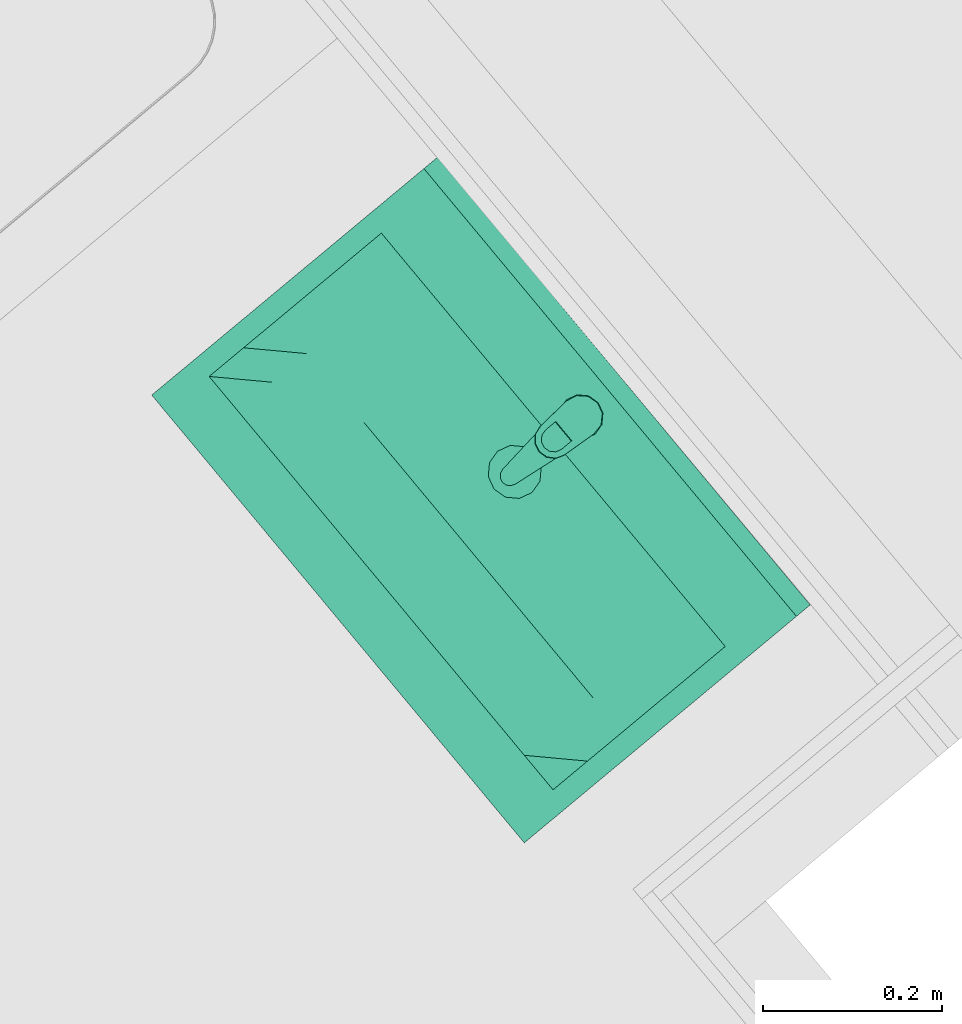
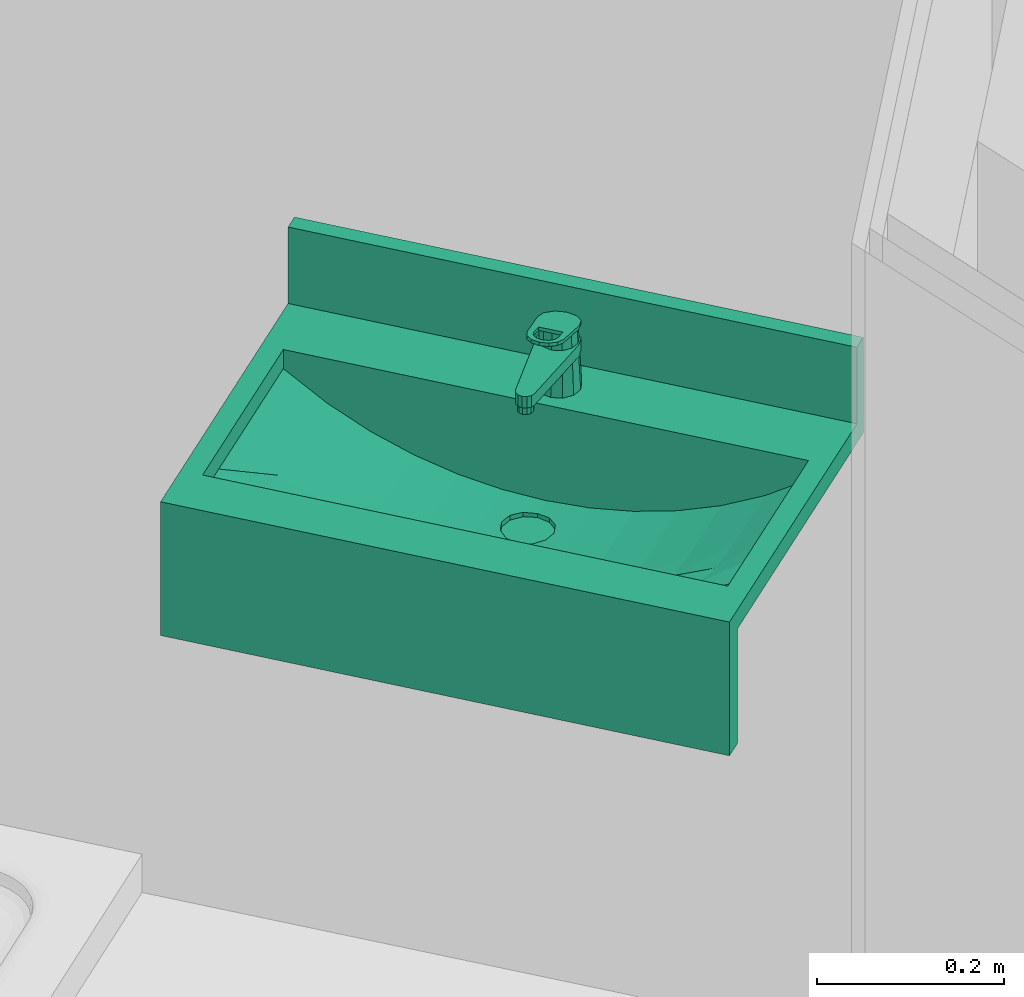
# One storey, part 59 of 67: 1 sanitary terminal.
"""IFC4 building model written with IfcOpenShell, lengths in metres."""

from ifc_helpers import new_model, entity, si_unit, converted_unit, derived_unit, direction, frame, origin_with_axes, place, context, subcontext, project, spatial, polygons, source, transform, mapped, type_object, element, save


model = new_model("IFC4")

# Units and contexts
model_context = context("Model", 3, precision=1e-05, world=origin_with_axes(), true_north=direction((0.0, 1.0)))
body_context = subcontext(model_context, "Body", "Model", "MODEL_VIEW")
ifc_project = project(units=[si_unit("LENGTHUNIT", "METRE"), si_unit("AREAUNIT", "SQUARE_METRE"), si_unit("VOLUMEUNIT", "CUBIC_METRE"), converted_unit("PLANEANGLEUNIT", "DEGREE", entity("IfcPlaneAngleMeasure", 0.0174532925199), si_unit("PLANEANGLEUNIT", "RADIAN"), dimensions=[0, 0, 0, 0, 0, 0, 0]), converted_unit("TIMEUNIT", "Year", entity("IfcTimeMeasure", 31556926.0), si_unit("TIMEUNIT", "SECOND"), dimensions=[0, 0, 1, 0, 0, 0, 0]), si_unit("MASSUNIT", "GRAM", prefix="KILO"), si_unit("THERMODYNAMICTEMPERATUREUNIT", "DEGREE_CELSIUS"), si_unit("LUMINOUSINTENSITYUNIT", "LUMEN"), si_unit("ENERGYUNIT", "JOULE", prefix="MEGA"), derived_unit("THERMALCONDUCTANCEUNIT", [(si_unit("POWERUNIT", "WATT"), 1), (si_unit("LENGTHUNIT", "METRE"), -1), (si_unit("THERMODYNAMICTEMPERATUREUNIT", "KELVIN"), -1)]), derived_unit("SPECIFICHEATCAPACITYUNIT", [(si_unit("ENERGYUNIT", "JOULE"), 1), (si_unit("MASSUNIT", "GRAM", prefix="KILO"), -1), (si_unit("THERMODYNAMICTEMPERATUREUNIT", "KELVIN"), -1)]), derived_unit("MASSDENSITYUNIT", [(si_unit("MASSUNIT", "GRAM", prefix="KILO"), 1), (si_unit("VOLUMEUNIT", "CUBIC_METRE"), -1)])], contexts=[model_context])

# Site, building, storey
site_placement = place(None, frame((-0.00153261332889, -0.00661245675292, 0.0), z_axis=(0.0, 0.0, 1.0), x_axis=(1.0, 0.0, 0.0)))
site = spatial("IfcSite", under=ifc_project, at=site_placement, Name="Site", CompositionType="ELEMENT")
building_placement = place(site_placement, origin_with_axes())
building = spatial("IfcBuilding", under=site, at=building_placement, Name="Building", CompositionType="ELEMENT")
storey_placement = place(building_placement, frame((0.0, 0.0, -0.22), z_axis=(0.0, 0.0, 1.0), x_axis=(1.0, 0.0, 0.0)))
storey = spatial("IfcBuildingStorey", under=building, at=storey_placement, Name="EG", CompositionType="ELEMENT", Elevation=-0.22)

# Sanitary terminal
sanitary_terminal_type = type_object("IfcSanitaryTerminalType", Name="Waschbecken mehrfach 26", PredefinedType="NOTDEFINED")
shared_shape = source(origin_with_axes(), body_context, "Body", "Tessellation", [
    polygons([(-0.325, 0.0, 0.875), (0.325, 0.0, 0.875), (0.325, -0.415119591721, 0.875), (-0.325, -0.415119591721, 0.875), (-0.3, -0.35255979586, 0.875), (0.3, -0.35255979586, 0.875), (0.3, -0.10255979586, 0.875), (-0.3, -0.10255979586, 0.875), (-0.325, 0.0, 0.9), (0.325, 0.0, 0.9), (0.325, -0.415119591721, 0.9), (-0.325, -0.415119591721, 0.9), (-0.3, -0.35255979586, 0.9), (0.3, -0.35255979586, 0.9), (0.3, -0.10255979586, 0.9), (-0.3, -0.10255979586, 0.9)], [[[1, 2, 3, 4], [5, 6, 7, 8]], [[1, 9, 10, 2]], [[2, 10, 11, 3]], [[3, 11, 12, 4]], [[4, 12, 9, 1]], [[13, 14, 6, 5]], [[14, 15, 7, 6]], [[15, 16, 8, 7]], [[16, 13, 5, 8]], [[11, 10, 9, 12], [13, 16, 15, 14]]], closed=True),
    polygons([(-0.325, -0.02, 0.9), (0.325, -0.02, 0.9), (0.325, -0.02, 1.0), (-0.325, -0.02, 1.0), (-0.325, 0.0, 0.9), (0.325, 0.0, 0.9), (0.325, 0.0, 1.0), (-0.325, 0.0, 1.0)], [[[1, 2, 3, 4]], [[1, 5, 6, 2]], [[2, 6, 7, 3]], [[4, 3, 7, 8]], [[5, 1, 4, 8]], [[6, 5, 8, 7]]], closed=True),
    polygons([(-0.325, -0.415119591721, 0.725), (0.325, -0.415119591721, 0.725), (0.325, -0.415119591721, 0.875), (-0.325, -0.415119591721, 0.875), (-0.325, -0.390119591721, 0.725), (0.325, -0.390119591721, 0.725), (0.325, -0.390119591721, 0.875), (-0.325, -0.390119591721, 0.875)], [[[1, 2, 3, 4]], [[1, 5, 6, 2]], [[2, 6, 7, 3]], [[4, 3, 7, 8]], [[5, 1, 4, 8]], [[6, 5, 8, 7]]], closed=True),
    polygons([(0.0, -0.18855104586, 0.775), (-0.015, -0.184531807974, 0.775751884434), (-0.0259807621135, -0.17355104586, 0.776302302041), (-0.03, -0.15855104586, 0.776503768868), (-0.0283946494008, -0.15255979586, 0.77642329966), (-0.05, -0.15255979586, 0.777506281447), (-0.05, -0.20255979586, 0.777506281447), (0.0, -0.20255979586, 0.775), (-0.015, -0.132570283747, 0.775751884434), (0.0, -0.12855104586, 0.775), (0.0, -0.10255979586, 0.775), (-0.05, -0.10255979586, 0.777506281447), (-0.0259807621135, -0.14355104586, 0.776302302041), (-0.1, -0.15255979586, 0.785102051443), (-0.1, -0.20255979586, 0.785102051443), (-0.05, -0.25255979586, 0.788254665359), (0.05, -0.15255979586, 0.777506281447), (0.0283946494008, -0.15255979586, 0.77642329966), (0.03, -0.15855104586, 0.776503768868), (0.0259807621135, -0.17355104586, 0.776302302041), (0.015, -0.184531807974, 0.775751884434), (0.05, -0.20255979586, 0.777506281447), (0.015, -0.132570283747, 0.775751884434), (0.0259807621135, -0.14355104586, 0.776302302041), (0.05, -0.10255979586, 0.777506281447), (0.15, -0.10255979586, 0.798030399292), (0.2, -0.10255979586, 0.816742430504), (0.25, -0.10255979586, 0.841987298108), (0.3, -0.10255979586, 0.875), (-0.3, -0.10255979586, 0.875), (-0.25, -0.10255979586, 0.841987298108), (-0.2, -0.10255979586, 0.816742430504), (-0.15, -0.10255979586, 0.798030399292), (-0.1, -0.10255979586, 0.785102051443), (0.1, -0.10255979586, 0.785102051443), (-0.15, -0.15255979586, 0.798030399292), (-0.15, -0.20255979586, 0.798030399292), (-0.1, -0.25255979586, 0.795144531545), (0.0, -0.25255979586, 0.785977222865), (0.1, -0.20255979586, 0.785102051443), (0.1, -0.15255979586, 0.785102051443), (0.2, -0.15255979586, 0.816742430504), (0.15, -0.15255979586, 0.798030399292), (0.25, -0.15255979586, 0.841987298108), (0.3, -0.15255979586, 0.875), (-0.25, -0.15255979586, 0.841987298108), (-0.3, -0.15255979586, 0.875), (-0.2, -0.15255979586, 0.816742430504), (-0.2, -0.20255979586, 0.816742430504), (-0.15, -0.25255979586, 0.806826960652), (-0.05, -0.30255979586, 0.830189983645), (-0.1, -0.30255979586, 0.83395176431), (0.05, -0.25255979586, 0.788254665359), (0.15, -0.20255979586, 0.798030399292), (0.2, -0.20255979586, 0.816742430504), (0.25, -0.20255979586, 0.841987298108), (0.3, -0.20255979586, 0.875), (0.3, -0.25255979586, 0.875), (0.3, -0.30255979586, 0.875), (0.3, -0.35255979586, 0.875), (-0.3, -0.25255979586, 0.875), (-0.3, -0.20255979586, 0.875), (-0.3, -0.35255979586, 0.875), (-0.3, -0.30255979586, 0.875), (-0.25, -0.20255979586, 0.841987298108), (-0.2, -0.25255979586, 0.823629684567), (-0.15, -0.30255979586, 0.840253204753), (0.0, -0.30255979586, 0.828939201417), (0.1, -0.25255979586, 0.795144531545), (0.15, -0.25255979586, 0.806826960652), (0.2, -0.25255979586, 0.823629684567), (0.25, -0.25255979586, 0.846079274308), (0.25, -0.30255979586, 0.860693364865), (0.25, -0.35255979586, 0.875), (-0.25, -0.30255979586, 0.860693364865), (-0.25, -0.25255979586, 0.846079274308), (-0.2, -0.30255979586, 0.849143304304), (-0.05, -0.35255979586, 0.875), (-0.1, -0.35255979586, 0.875), (-0.15, -0.35255979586, 0.875), (0.05, -0.30255979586, 0.830189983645), (-0.2, -0.35255979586, 0.875), (-0.25, -0.35255979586, 0.875), (0.2, -0.35255979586, 0.875), (0.15, -0.35255979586, 0.875), (0.1, -0.35255979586, 0.875), (0.05, -0.35255979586, 0.875), (0.0, -0.35255979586, 0.875), (0.1, -0.30255979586, 0.83395176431), (0.15, -0.30255979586, 0.840253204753), (0.2, -0.30255979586, 0.849143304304)], [[[1, 2, 3, 4, 5, 6, 7, 8]], [[9, 10, 11, 12, 6, 5, 13]], [[7, 6, 14, 15]], [[16, 8, 7]], [[17, 18, 19, 20, 21, 1, 8, 22]], [[10, 23, 24, 18, 17, 25, 11]], [[26, 27, 28, 29, 30, 31, 32, 33, 34, 12, 11, 25, 35]], [[6, 12, 34, 14]], [[15, 14, 36, 37]], [[38, 7, 15]], [[16, 39, 8]], [[38, 16, 7]], [[39, 22, 8]], [[40, 41, 17, 22]], [[41, 35, 25, 17]], [[42, 27, 26, 43]], [[44, 28, 27, 42]], [[45, 29, 28, 44]], [[46, 31, 30, 47]], [[48, 32, 31, 46]], [[36, 33, 32, 48]], [[14, 34, 33, 36]], [[43, 26, 35, 41]], [[37, 36, 48, 49]], [[50, 15, 37]], [[50, 38, 15]], [[51, 39, 16]], [[52, 16, 38]], [[39, 53, 22]], [[54, 43, 41, 40]], [[53, 40, 22]], [[55, 42, 43, 54]], [[56, 44, 42, 55]], [[57, 58, 59, 60, 29, 45]], [[57, 45, 44, 56]], [[61, 62, 47, 30, 63, 64]], [[65, 46, 47, 62]], [[49, 48, 46, 65]], [[66, 37, 49]], [[66, 50, 37]], [[67, 38, 50]], [[51, 68, 39]], [[52, 51, 16]], [[67, 52, 38]], [[68, 53, 39]], [[69, 54, 40]], [[53, 69, 40]], [[70, 55, 54]], [[71, 56, 55]], [[72, 58, 57]], [[73, 59, 58]], [[74, 60, 59]], [[72, 57, 56]], [[61, 65, 62]], [[63, 75, 64]], [[64, 76, 61]], [[76, 49, 65]], [[76, 66, 49]], [[77, 50, 66]], [[77, 67, 50]], [[78, 68, 51]], [[79, 51, 52]], [[80, 52, 67]], [[68, 81, 53]], [[69, 70, 54]], [[81, 69, 53]], [[70, 71, 55]], [[71, 72, 56]], [[73, 58, 72]], [[74, 59, 73]], [[80, 82, 83, 63, 60, 74, 84, 85, 86, 87, 88, 78, 79]], [[61, 76, 65]], [[63, 83, 75]], [[64, 75, 76]], [[75, 66, 76]], [[75, 77, 66]], [[82, 67, 77]], [[78, 88, 68]], [[79, 78, 51]], [[80, 79, 52]], [[82, 80, 67]], [[88, 81, 68]], [[89, 70, 69]], [[81, 89, 69]], [[90, 71, 70]], [[91, 72, 71]], [[91, 73, 72]], [[84, 74, 73]], [[83, 82, 77]], [[85, 84, 91]], [[86, 85, 90]], [[87, 86, 89]], [[88, 87, 81]], [[83, 77, 75]], [[89, 90, 70]], [[87, 89, 81]], [[90, 91, 71]], [[84, 73, 91]], [[85, 91, 90]], [[86, 90, 89]]], closed=False),
    polygons([(0.03, -0.15855104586, 0.776503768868), (0.0259807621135, -0.17355104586, 0.776302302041), (0.0259807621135, -0.17355104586, 0.77), (0.03, -0.15855104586, 0.77), (0.015, -0.184531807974, 0.775751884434), (0.015, -0.184531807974, 0.77), (0.0, -0.12855104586, 0.77), (0.015, -0.132570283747, 0.77), (0.0259807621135, -0.14355104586, 0.77), (0.0, -0.18855104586, 0.77), (-0.015, -0.184531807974, 0.77), (-0.0259807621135, -0.17355104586, 0.77), (-0.03, -0.15855104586, 0.77), (-0.0259807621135, -0.14355104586, 0.77), (-0.015, -0.132570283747, 0.77), (0.0259807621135, -0.14355104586, 0.776302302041), (0.0, -0.18855104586, 0.775), (0.0, -0.12855104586, 0.775), (0.015, -0.132570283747, 0.775751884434), (-0.015, -0.184531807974, 0.775751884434), (-0.0259807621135, -0.17355104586, 0.776302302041), (-0.03, -0.15855104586, 0.776503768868), (-0.0259807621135, -0.14355104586, 0.776302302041), (-0.015, -0.132570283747, 0.775751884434)], [[[1, 2, 3, 4]], [[2, 5, 6, 3]], [[7, 8, 9, 4, 3, 6, 10, 11, 12, 13, 14, 15]], [[16, 1, 4, 9]], [[5, 17, 10, 6]], [[18, 19, 8, 7]], [[19, 16, 9, 8]], [[17, 20, 11, 10]], [[20, 21, 12, 11]], [[21, 22, 13, 12]], [[22, 23, 14, 13]], [[23, 24, 15, 14]], [[24, 18, 7, 15]]], closed=False),
    polygons([(0.0125, -0.0409091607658, 0.9), (0.0, -0.0375597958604, 0.9), (0.0, -0.0413578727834, 0.975961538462), (0.0105873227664, -0.0442220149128, 0.976507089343), (0.0216506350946, -0.0500597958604, 0.9), (0.025, -0.0625597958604, 0.9), (0.0216506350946, -0.0750597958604, 0.9), (0.0125, -0.084210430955, 0.9), (0.0, -0.0875597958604, 0.9), (-0.0125, -0.084210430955, 0.9), (-0.0216506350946, -0.0750597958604, 0.9), (-0.025, -0.0625597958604, 0.9), (-0.0216506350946, -0.0500597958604, 0.9), (-0.0125, -0.0409091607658, 0.9), (-0.0105873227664, -0.0442220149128, 0.976507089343), (-0.0182735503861, -0.0520095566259, 0.977990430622), (-0.021, -0.0625597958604, 0.98), (-0.0181003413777, -0.0730100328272, 0.981990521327), (-0.0104141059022, -0.0805975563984, 0.983435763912), (0.0, -0.0833616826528, 0.983962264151), (0.0104141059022, -0.0805975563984, 0.983435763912), (0.0181003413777, -0.0730100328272, 0.981990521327), (0.021, -0.0625597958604, 0.98), (0.0182735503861, -0.0520095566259, 0.977990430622)], [[[1, 2, 3, 4]], [[1, 5, 6, 7, 8, 9, 10, 11, 12, 13, 14, 2]], [[2, 14, 15, 3]], [[4, 3, 15, 16, 17, 18, 19, 20, 21, 22, 23, 24]], [[5, 1, 4, 24]], [[6, 5, 24, 23]], [[7, 6, 23, 22]], [[8, 7, 22, 21]], [[9, 8, 21, 20]], [[10, 9, 20, 19]], [[11, 10, 19, 18]], [[12, 11, 18, 17]], [[13, 12, 17, 16]], [[14, 13, 16, 15]]], closed=True),
    polygons([(0.009, -0.16555979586, 0.935), (0.00779422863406, -0.16105979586, 0.935), (0.00779422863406, -0.16105979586, 0.945), (0.009, -0.16555979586, 0.945), (0.00779422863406, -0.17005979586, 0.935), (0.0045, -0.173354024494, 0.935), (0.0, -0.17455979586, 0.935), (-0.0045, -0.173354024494, 0.935), (-0.00779422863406, -0.17005979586, 0.935), (-0.009, -0.16555979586, 0.935), (-0.00779422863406, -0.16105979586, 0.935), (-0.0045, -0.157765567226, 0.935), (0.0, -0.15655979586, 0.935), (0.0045, -0.157765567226, 0.935), (0.0045, -0.157765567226, 0.945), (0.0, -0.15655979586, 0.945), (-0.0045, -0.157765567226, 0.945), (-0.00779422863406, -0.16105979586, 0.945), (-0.009, -0.16555979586, 0.945), (-0.00779422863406, -0.17005979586, 0.945), (-0.0045, -0.173354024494, 0.945), (0.0, -0.17455979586, 0.945), (0.0045, -0.173354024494, 0.945), (0.00779422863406, -0.17005979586, 0.945)], [[[1, 2, 3, 4]], [[1, 5, 6, 7, 8, 9, 10, 11, 12, 13, 14, 2]], [[2, 14, 15, 3]], [[4, 3, 15, 16, 17, 18, 19, 20, 21, 22, 23, 24]], [[5, 1, 4, 24]], [[6, 5, 24, 23]], [[7, 6, 23, 22]], [[8, 7, 22, 21]], [[9, 8, 21, 20]], [[10, 9, 20, 19]], [[11, 10, 19, 18]], [[12, 11, 18, 17]], [[13, 12, 17, 16]], [[14, 13, 16, 15]]], closed=True),
    polygons([(-0.0128717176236, -0.0423034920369, 0.96), (-0.021727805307, -0.0523665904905, 0.96), (-0.0238054, -0.0656096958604, 0.96), (-0.010911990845, -0.166948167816, 0.96), (-0.00902887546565, -0.17184299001, 0.96), (-0.00509332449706, -0.175309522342, 0.96), (3.62679860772e-08, -0.176559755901, 0.96), (0.00509338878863, -0.175309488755, 0.96), (0.00902891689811, -0.171842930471, 0.96), (0.010912, -0.16694809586, 0.96), (0.0238053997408, -0.0656096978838, 0.96), (0.0217278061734, -0.0523665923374, 0.96), (0.0128717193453, -0.042303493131, 0.96), (1.01998896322e-09, -0.0385598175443, 0.96), (0.011, -0.0435072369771, 0.96), (0.0190525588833, -0.0515597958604, 0.96), (0.022, -0.0625597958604, 0.96), (0.0190525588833, -0.0735597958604, 0.96), (0.011, -0.0816123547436, 0.96), (0.0, -0.0845597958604, 0.96), (-0.011, -0.0816123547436, 0.96), (-0.0190525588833, -0.0735597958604, 0.96), (-0.022, -0.0625597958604, 0.96), (-0.0190525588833, -0.0515597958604, 0.96), (-0.011, -0.0435072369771, 0.96), (0.0, -0.0405597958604, 0.96), (-0.021727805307, -0.0523665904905, 0.945), (-0.0128717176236, -0.0423034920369, 0.945), (-0.0238054, -0.0656096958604, 0.945), (-0.010911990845, -0.166948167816, 0.945), (-0.00902887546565, -0.17184299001, 0.945), (-0.00509332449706, -0.175309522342, 0.945), (3.62679860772e-08, -0.176559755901, 0.945), (0.00509338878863, -0.175309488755, 0.945), (0.00902891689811, -0.171842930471, 0.945), (0.010912, -0.16694809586, 0.945), (0.0238053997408, -0.0656096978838, 0.945), (0.0217278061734, -0.0523665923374, 0.945), (0.0128717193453, -0.042303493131, 0.945), (1.01998896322e-09, -0.0385598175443, 0.945), (0.011375, -0.0428577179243, 0.945), (0.0197020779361, -0.0511847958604, 0.945), (0.02275, -0.0625597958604, 0.945), (0.0197020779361, -0.0739347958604, 0.945), (0.011375, -0.0822618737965, 0.945), (0.0, -0.0853097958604, 0.945), (-0.011375, -0.0822618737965, 0.945), (-0.0197020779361, -0.0739347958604, 0.945), (-0.02275, -0.0625597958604, 0.945), (-0.0197020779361, -0.0511847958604, 0.945), (-0.011375, -0.0428577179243, 0.945), (0.0, -0.0398097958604, 0.945)], [[[1, 2, 3, 4, 5, 6, 7, 8, 9, 10, 11, 12, 13, 14], [15, 16, 17, 18, 19, 20, 21, 22, 23, 24, 25, 26]], [[27, 2, 1, 28]], [[29, 3, 2, 27]], [[30, 4, 3, 29]], [[31, 5, 4, 30]], [[32, 6, 5, 31]], [[33, 7, 6, 32]], [[34, 8, 7, 33]], [[35, 9, 8, 34]], [[36, 10, 9, 35]], [[37, 11, 10, 36]], [[38, 12, 11, 37]], [[39, 13, 12, 38]], [[40, 14, 13, 39]], [[28, 1, 14, 40]], [[41, 42, 16, 15]], [[42, 43, 17, 16]], [[43, 44, 18, 17]], [[44, 45, 19, 18]], [[45, 46, 20, 19]], [[21, 20, 46, 47]], [[22, 21, 47, 48]], [[23, 22, 48, 49]], [[24, 23, 49, 50]], [[25, 24, 50, 51]], [[51, 52, 26, 25]], [[52, 41, 15, 26]], [[33, 32, 31, 30, 29, 27, 28, 40, 39, 38, 37, 36, 35, 34], [45, 44, 43, 42, 41, 52, 51, 50, 49, 48, 47, 46]]], closed=True),
    polygons([(0.023893, -0.0642523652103, 0.980322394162), (0.0212964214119, -0.0517850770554, 0.977947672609), (0.0212964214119, -0.0510366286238, 0.981877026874), (0.023893, -0.0635039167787, 0.984251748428), (0.0209459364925, -0.104396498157, 0.987968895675), (0.0176631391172, -0.114074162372, 0.989812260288), (0.0100614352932, -0.121023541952, 0.991135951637), (-4.42652908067e-07, -0.123545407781, 0.991616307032), (-0.0100622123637, -0.121023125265, 0.991135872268), (-0.0176636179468, -0.114073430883, 0.989812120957), (-0.020946, -0.104395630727, 0.987968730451), (-0.023893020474, -0.0642520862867, 0.980322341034), (-0.0212962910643, -0.0517848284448, 0.977947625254), (-0.0124716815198, -0.0424685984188, 0.976173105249), (1.42337785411e-07, -0.0390278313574, 0.975517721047), (0.0124719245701, -0.0424687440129, 0.976173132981), (0.014, -0.0881005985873, 0.984864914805), (-0.014, -0.0881005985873, 0.984864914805), (-0.014, -0.102916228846, 0.987686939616), (-0.012124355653, -0.109792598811, 0.988996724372), (-0.007, -0.114826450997, 0.989955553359), (0.0, -0.116668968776, 0.990306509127), (0.007, -0.114826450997, 0.989955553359), (0.012124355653, -0.109792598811, 0.988996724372), (0.014, -0.102916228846, 0.987686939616), (0.0124719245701, -0.0417202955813, 0.980102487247), (1.42337785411e-07, -0.0382793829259, 0.979447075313), (-0.0124716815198, -0.0417201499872, 0.980102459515), (-0.0212962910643, -0.0510363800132, 0.98187697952), (-0.023893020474, -0.0635036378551, 0.984251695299), (-0.020946, -0.103647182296, 0.991898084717), (-0.0176636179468, -0.113324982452, 0.993741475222), (-0.0100622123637, -0.120274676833, 0.995065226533), (-4.42652908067e-07, -0.122796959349, 0.995545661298), (0.0100614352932, -0.120275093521, 0.995065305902), (0.0176631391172, -0.11332571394, 0.993741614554), (0.0209459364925, -0.103648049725, 0.991898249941), (0.014, -0.0873521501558, 0.988794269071), (0.014, -0.102167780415, 0.991616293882), (0.012124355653, -0.10904415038, 0.992926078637), (0.007, -0.114078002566, 0.993884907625), (0.0, -0.115920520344, 0.994235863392), (-0.007, -0.114078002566, 0.993884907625), (-0.012124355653, -0.10904415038, 0.992926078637), (-0.014, -0.102167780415, 0.991616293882), (-0.014, -0.0873521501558, 0.988794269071)], [[[1, 2, 3, 4]], [[1, 5, 6, 7, 8, 9, 10, 11, 12, 13, 14, 15, 16, 2], [17, 18, 19, 20, 21, 22, 23, 24, 25]], [[2, 16, 26, 3]], [[4, 3, 26, 27, 28, 29, 30, 31, 32, 33, 34, 35, 36, 37], [38, 39, 40, 41, 42, 43, 44, 45, 46]], [[5, 1, 4, 37]], [[6, 5, 37, 36]], [[7, 6, 36, 35]], [[8, 7, 35, 34]], [[9, 8, 34, 33]], [[10, 9, 33, 32]], [[11, 10, 32, 31]], [[12, 11, 31, 30]], [[13, 12, 30, 29]], [[14, 13, 29, 28]], [[15, 14, 28, 27]], [[16, 15, 27, 26]], [[18, 17, 38, 46]], [[19, 18, 46, 45]], [[20, 19, 45, 44]], [[21, 20, 44, 43]], [[22, 21, 43, 42]], [[23, 22, 42, 41]], [[24, 23, 41, 40]], [[25, 24, 40, 39]], [[17, 25, 39, 38]]], closed=True),
])
sanitary_terminal_placement = place(storey_placement, frame((-3.16586758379, 21.2588114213, 0.145), z_axis=(0.0, 0.0, 1.0), x_axis=(0.639604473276, -0.768704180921, 0.0)))
element("IfcSanitaryTerminal", 1, at=sanitary_terminal_placement, inside=storey, type_object=sanitary_terminal_type, Name="Objekt-0009", PredefinedType="NOTDEFINED", context=body_context, shape_type="MappedRepresentation", body=[
    mapped(shared_shape, transform((0.0, 0.0, 0.0))),
])

save(model, "model.ifc")
